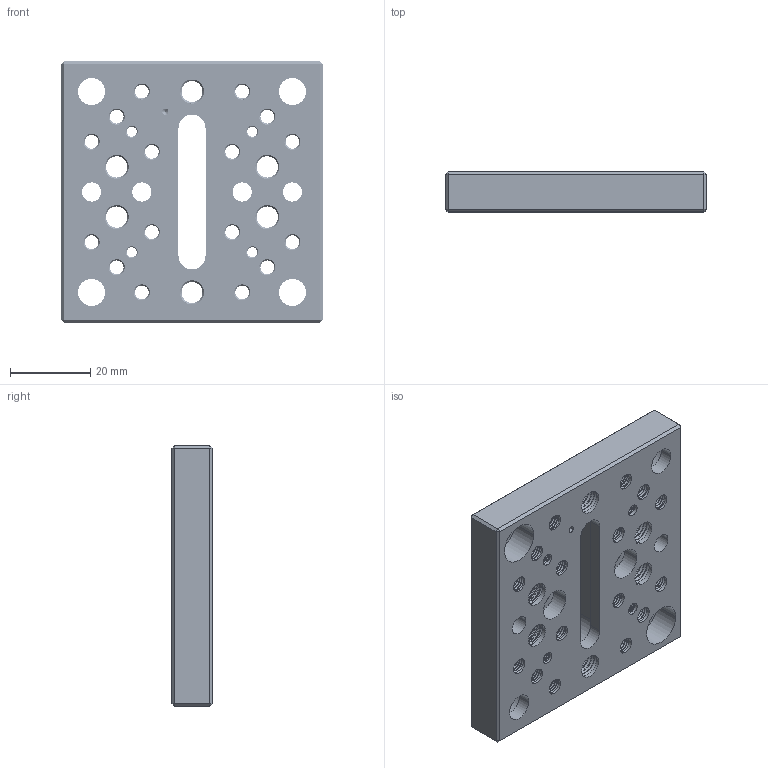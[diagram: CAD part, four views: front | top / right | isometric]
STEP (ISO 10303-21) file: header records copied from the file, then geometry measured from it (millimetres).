
FILE_DESCRIPTION((''),'2;1');
FILE_NAME('OPS-M2','2020-11-05T',('Administrator'),(''),'CREO PARAMETRIC BY PTC INC, 2015290','CREO PARAMETRIC BY PTC INC, 2015290','');
FILE_SCHEMA(('CONFIG_CONTROL_DESIGN'));
Products named in the file (1): OPS-M2
Bounding box: 65 x 10.04 x 65 mm (x, y, z)
Volume: 30968.8 mm3; surface area: 16528.1 mm2
Topology: 1 solids, 1 shells, 1071 faces, 3116 edges, 2021 vertices
Faces by surface type: cylinder 676, bspline 352, plane 41, cone 2
Entity records: 91224 total; most frequent: CARTESIAN_POINT 67322, ORIENTED_EDGE 6228, EDGE_CURVE 3114, DIRECTION 2914, VERTEX_POINT 2021, B_SPLINE_CURVE_WITH_KNOTS 1816, EDGE_LOOP 1153, VECTOR 1120
